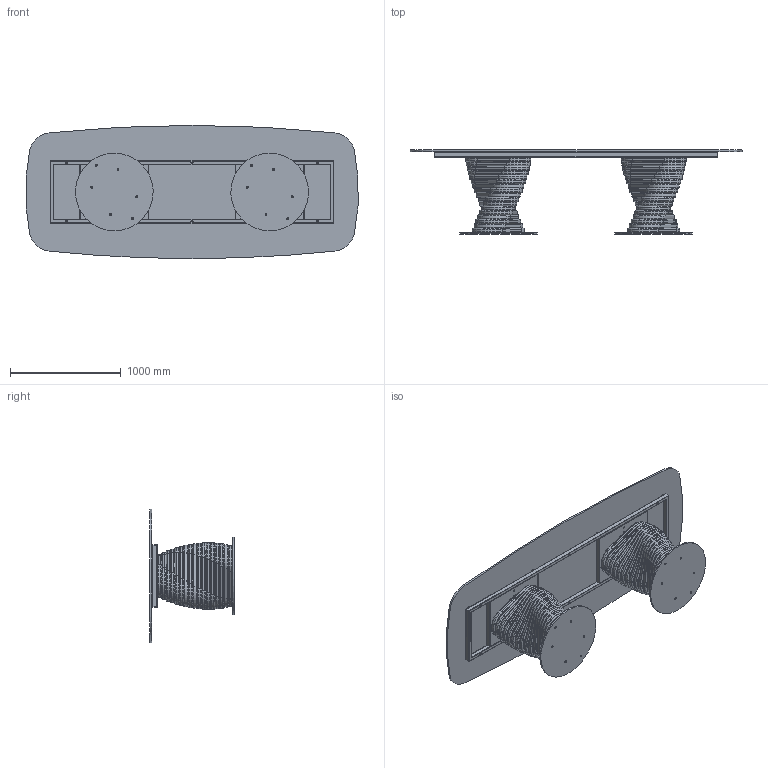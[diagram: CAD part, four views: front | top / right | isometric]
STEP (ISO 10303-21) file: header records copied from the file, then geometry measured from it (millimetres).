
FILE_DESCRIPTION (( 'STEP AP203' ), '1' );
FILE_NAME ('RO44G.STEP', '2024-08-07T13:20:48', ( '' ), ( '' ), 'SwSTEP 2.0', 'SolidWorks 2022', '' );
FILE_SCHEMA (( 'CONFIG_CONTROL_DESIGN' ));
Length unit declared in the file: millimetre
Products named in the file (15): TTAV03-06-TELAIO UNIVERSALE X TAVOLI 300-340cm; ROBX00000INF-00-Anello rotolo INFERIORE_Default<A macchina>; ROB200000-00-PIASTRA BASE_Ø70cm; ROBX00000MED-00-Anello rotolo MEDIO_Default<A macchina>; TTAV03_02-06-VASSOIO IRRIGIDIMENTO TELAIO UNIVERSALE RETTANGOLARE; C4XCRXX-00-Piani Sagomati in Cristallo_3000 x 1200; COLLO TELAIO UNIVERSALE TTAV03 CON FERRAMENTA_MTG TOP CRISTALLO VERNICIATO-CERAMICA; ROBX00000SUP-00-Anello rotolo SUPERIORE_Default<A macchina>; M8xXXmm_M8x20mm; rondella M8_8X24; M8xXXmm_hex_M8X20mm; ROBX00000-00-ROTOLO BASE 17 ANELLI; 434070-00-PIEDINO TPV GOMMA NERO D. 30x8max18_filo estetico; TTAV03_01-06-RING TUBO TELAIO UNIVERSALE X TAVOLI 300-340cm; RO44G
Assembly tree (63 placements, depth 4):
  RO44G
    ROB200000-00-PIASTRA BASE_Ø70cm  x2
    COLLO TELAIO UNIVERSALE TTAV03 CON FERRAMENTA_MTG TOP CRISTALLO VERNICIATO-CERAMICA
      TTAV03-06-TELAIO UNIVERSALE X TAVOLI 300-340cm
        TTAV03_01-06-RING TUBO TELAIO UNIVERSALE X TAVOLI 300-340cm
        TTAV03_02-06-VASSOIO IRRIGIDIMENTO TELAIO UNIVERSALE RETTANGOLARE  x2
      434070-00-PIEDINO TPV GOMMA NERO D. 30x8max18_filo estetico  x8
    ROBX00000-00-ROTOLO BASE 17 ANELLI  x2
      ROBX00000INF-00-Anello rotolo INFERIORE_Default<A macchina>
      ROBX00000MED-00-Anello rotolo MEDIO_Default<A macchina>
      ROBX00000SUP-00-Anello rotolo SUPERIORE_Default<A macchina>
    M8xXXmm_hex_M8X20mm  x12
    rondella M8_8X24  x8
    M8xXXmm_M8x20mm  x8
    C4XCRXX-00-Piani Sagomati in Cristallo_3000 x 1200
Bounding box: 2991.72 x 757 x 1200 mm (x, y, z)
Volume: 74033218.9 mm3; surface area: 21385106.8 mm2
Topology: 186 solids, 186 shells, 2831 faces, 6655 edges, 4150 vertices
Faces by surface type: plane 1166, cylinder 1001, torus 424, cone 232, sphere 8
Entity records: 21177 total; most frequent: CARTESIAN_POINT 4684, DIRECTION 2996, ORIENTED_EDGE 2702, EDGE_CURVE 1351, AXIS2_PLACEMENT_3D 1133, VERTEX_POINT 845, LINE 730, VECTOR 730
